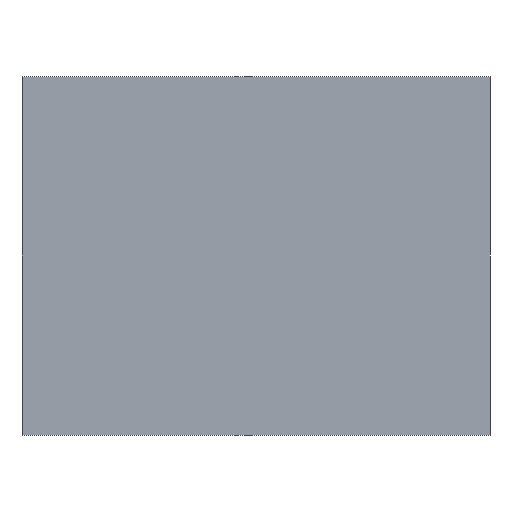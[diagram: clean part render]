
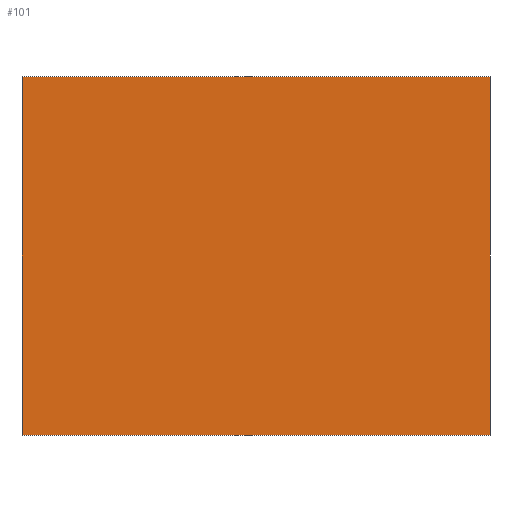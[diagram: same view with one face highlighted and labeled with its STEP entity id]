
A CAD part, front view. The second image highlights one B-rep face of the part: STEP entity #101.
In plain terms, the highlighted planar face has unit normal (0, -1, 0).
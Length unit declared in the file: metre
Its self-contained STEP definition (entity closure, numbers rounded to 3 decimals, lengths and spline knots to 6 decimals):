
#24=ORIENTED_EDGE('',*,*,#38,.F.);
#25=ORIENTED_EDGE('',*,*,#46,.T.);
#26=ORIENTED_EDGE('',*,*,#43,.T.);
#27=ORIENTED_EDGE('',*,*,#47,.F.);
#38=EDGE_CURVE('',#50,#51,#58,.T.);
#43=EDGE_CURVE('',#54,#55,#63,.T.);
#46=EDGE_CURVE('',#50,#54,#66,.T.);
#47=EDGE_CURVE('',#51,#55,#67,.T.);
#50=VERTEX_POINT('',#155);
#51=VERTEX_POINT('',#157);
#54=VERTEX_POINT('',#167);
#55=VERTEX_POINT('',#168);
#58=LINE('',#156,#70);
#63=LINE('',#166,#75);
#66=LINE('',#172,#78);
#67=LINE('',#173,#79);
#70=VECTOR('',#129,1.);
#75=VECTOR('',#138,1.);
#78=VECTOR('',#143,1.);
#79=VECTOR('',#144,1.);
#83=EDGE_LOOP('',(#24,#25,#26,#27));
#89=FACE_BOUND('',#83,.T.);
#95=PLANE('',#120);
#101=ADVANCED_FACE('',(#89),#95,.T.);
#120=AXIS2_PLACEMENT_3D('',#171,#141,#142);
#129=DIRECTION('',(0.,0.,-1.));
#138=DIRECTION('',(0.,0.,-1.));
#141=DIRECTION('',(0.,-1.,0.));
#142=DIRECTION('',(1.,0.,0.));
#143=DIRECTION('',(-1.,0.,0.));
#144=DIRECTION('',(-1.,0.,0.));
#155=CARTESIAN_POINT('',(0.00095,0.0048,0.00073));
#156=CARTESIAN_POINT('',(0.00095,0.0048,0.001046));
#157=CARTESIAN_POINT('',(0.00095,0.0048,0.0005));
#166=CARTESIAN_POINT('',(0.00065,0.0048,0.001046));
#167=CARTESIAN_POINT('',(0.00065,0.0048,0.00073));
#168=CARTESIAN_POINT('',(0.00065,0.0048,0.0005));
#171=CARTESIAN_POINT('',(0.00095,0.0048,0.001046));
#172=CARTESIAN_POINT('',(0.00095,0.0048,0.00073));
#173=CARTESIAN_POINT('',(0.00095,0.0048,0.0005));
